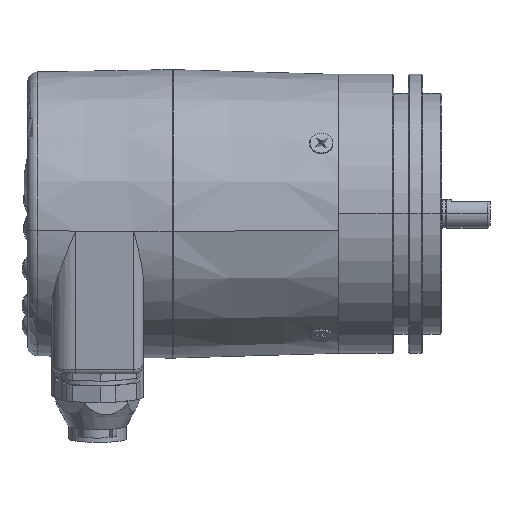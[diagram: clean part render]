
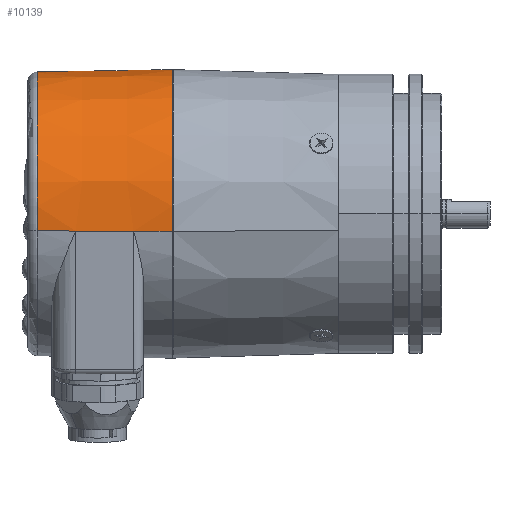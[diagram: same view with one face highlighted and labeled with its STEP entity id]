
A CAD part, top view. The second image highlights one B-rep face of the part: STEP entity #10139.
In plain terms, the highlighted conical face has half-angle 1 degrees and reference radius 30 mm.
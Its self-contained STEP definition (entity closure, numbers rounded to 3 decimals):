
#3152 = DIRECTION ( 'NONE',  ( 1., 0.002, -0.017 ) ) ;
#3153 = VECTOR ( 'NONE', #3152, 1000. ) ;
#3154 = CARTESIAN_POINT ( 'NONE',  ( -27., 3.656, -29.776 ) ) ;
#3155 = LINE ( 'NONE', #3154, #3153 ) ;
#3156 = CARTESIAN_POINT ( 'NONE',  ( -47.087, 3.613, -29.428 ) ) ;
#3261 = FACE_OUTER_BOUND ( 'NONE', #10140, .T. ) ;
#3374 = DIRECTION ( 'NONE',  ( 1., -0.002, 0.017 ) ) ;
#3375 = VECTOR ( 'NONE', #3374, 1000. ) ;
#3376 = CARTESIAN_POINT ( 'NONE',  ( -27., -3.656, 29.776 ) ) ;
#3412 = CARTESIAN_POINT ( 'NONE',  ( -27., -3.656, 29.776 ) ) ;
#3458 = LINE ( 'NONE', #3376, #3375 ) ;
#3472 = CARTESIAN_POINT ( 'NONE',  ( -47.087, -3.613, 29.428 ) ) ;
#3478 = CARTESIAN_POINT ( 'NONE',  ( -35.035, -3.639, 29.637 ) ) ;
#3479 = VECTOR ( 'NONE', #3507, 1000. ) ;
#3506 = DIRECTION ( 'NONE',  ( 1., 0.002, -0.017 ) ) ;
#3507 = DIRECTION ( 'NONE',  ( 1., -0.002, 0.017 ) ) ;
#3508 = CARTESIAN_POINT ( 'NONE',  ( -27.523, -3.655, 29.767 ) ) ;
#3509 = LINE ( 'NONE', #3508, #3479 ) ;
#3550 = VECTOR ( 'NONE', #3506, 1000. ) ;
#3551 = CARTESIAN_POINT ( 'NONE',  ( -27., 3.656, -29.776 ) ) ;
#3552 = LINE ( 'NONE', #3551, #3550 ) ;
#3566 = CARTESIAN_POINT ( 'NONE',  ( -35.035, 3.639, -29.637 ) ) ;
#3585 = DIRECTION ( 'NONE',  ( 0., 0.122, -0.993 ) ) ;
#3586 = DIRECTION ( 'NONE',  ( 1., 0., 0. ) ) ;
#3587 = CARTESIAN_POINT ( 'NONE',  ( -27., 0., 0. ) ) ;
#3588 = AXIS2_PLACEMENT_3D ( 'NONE', #3587, #3586, #3585 ) ;
#3589 = CIRCLE ( 'NONE', #3588, 30. ) ;
#3617 = CARTESIAN_POINT ( 'NONE',  ( -27.523, 3.655, -29.767 ) ) ;
#3661 = DIRECTION ( 'NONE',  ( 1., 0.002, -0.017 ) ) ;
#3662 = VECTOR ( 'NONE', #3661, 1000. ) ;
#3665 = LINE ( 'NONE', #3617, #3662 ) ;
#5445 = AXIS2_PLACEMENT_3D ( 'NONE', #5451, #5521, #5540 ) ;
#5450 = CONICAL_SURFACE ( 'NONE', #5445, 30., 0.017 ) ;
#5451 = CARTESIAN_POINT ( 'NONE',  ( -27., 0., 0. ) ) ;
#5479 = CARTESIAN_POINT ( 'NONE',  ( -27., 3.656, -29.776 ) ) ;
#5485 = DIRECTION ( 'NONE',  ( 1., 0., 0. ) ) ;
#5486 = CARTESIAN_POINT ( 'NONE',  ( -55.035, 0., 0. ) ) ;
#5487 = AXIS2_PLACEMENT_3D ( 'NONE', #5486, #5485, #5492 ) ;
#5488 = CIRCLE ( 'NONE', #5487, 29.511 ) ;
#5489 = CARTESIAN_POINT ( 'NONE',  ( -55.035, 3.596, -29.291 ) ) ;
#5491 = CARTESIAN_POINT ( 'NONE',  ( -55.035, -3.596, 29.291 ) ) ;
#5492 = DIRECTION ( 'NONE',  ( 0., -0.122, 0.993 ) ) ;
#5494 = DIRECTION ( 'NONE',  ( 1., -0.002, 0.017 ) ) ;
#5495 = VECTOR ( 'NONE', #5494, 1000. ) ;
#5496 = CARTESIAN_POINT ( 'NONE',  ( -27., -3.656, 29.776 ) ) ;
#5497 = LINE ( 'NONE', #5496, #5495 ) ;
#5521 = DIRECTION ( 'NONE',  ( 1., 0., 0. ) ) ;
#5540 = DIRECTION ( 'NONE',  ( 0., 0.122, -0.993 ) ) ;
#10099 = VERTEX_POINT ( 'NONE', #3156 ) ;
#10100 = ORIENTED_EDGE ( 'NONE', *, *, #10101, .F. ) ;
#10101 = EDGE_CURVE ( 'NONE', #10161, #10099, #3155, .T. ) ;
#10139 = ADVANCED_FACE ( 'NONE', ( #3261 ), #5450, .T. ) ;
#10140 = EDGE_LOOP ( 'NONE', ( #10141, #10214, #10227, #10223, #10318, #10319, #10304, #10100 ) ) ;
#10141 = ORIENTED_EDGE ( 'NONE', *, *, #10160, .T. ) ;
#10160 = EDGE_CURVE ( 'NONE', #10161, #10162, #5488, .T. ) ;
#10161 = VERTEX_POINT ( 'NONE', #5489 ) ;
#10162 = VERTEX_POINT ( 'NONE', #5491 ) ;
#10182 = EDGE_CURVE ( 'NONE', #10162, #10205, #5497, .T. ) ;
#10187 = VERTEX_POINT ( 'NONE', #5479 ) ;
#10205 = VERTEX_POINT ( 'NONE', #3472 ) ;
#10214 = ORIENTED_EDGE ( 'NONE', *, *, #10182, .T. ) ;
#10223 = ORIENTED_EDGE ( 'NONE', *, *, #10224, .T. ) ;
#10224 = EDGE_CURVE ( 'NONE', #10254, #10247, #3458, .T. ) ;
#10227 = ORIENTED_EDGE ( 'NONE', *, *, #10253, .T. ) ;
#10247 = VERTEX_POINT ( 'NONE', #3412 ) ;
#10253 = EDGE_CURVE ( 'NONE', #10205, #10254, #3509, .T. ) ;
#10254 = VERTEX_POINT ( 'NONE', #3478 ) ;
#10277 = EDGE_CURVE ( 'NONE', #10309, #10187, #3552, .T. ) ;
#10296 = EDGE_CURVE ( 'NONE', #10187, #10247, #3589, .T. ) ;
#10304 = ORIENTED_EDGE ( 'NONE', *, *, #10331, .F. ) ;
#10309 = VERTEX_POINT ( 'NONE', #3566 ) ;
#10318 = ORIENTED_EDGE ( 'NONE', *, *, #10296, .F. ) ;
#10319 = ORIENTED_EDGE ( 'NONE', *, *, #10277, .F. ) ;
#10331 = EDGE_CURVE ( 'NONE', #10099, #10309, #3665, .T. ) ;
